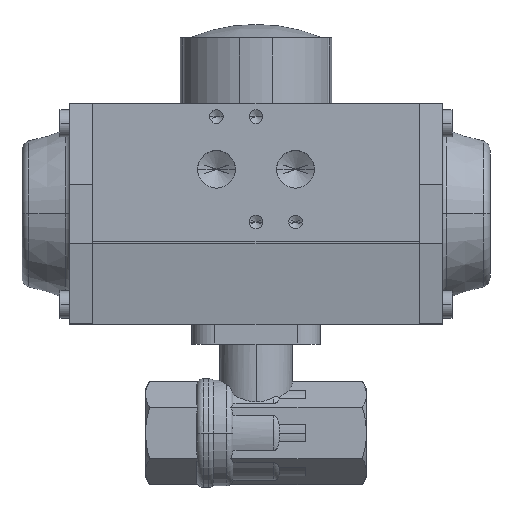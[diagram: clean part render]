
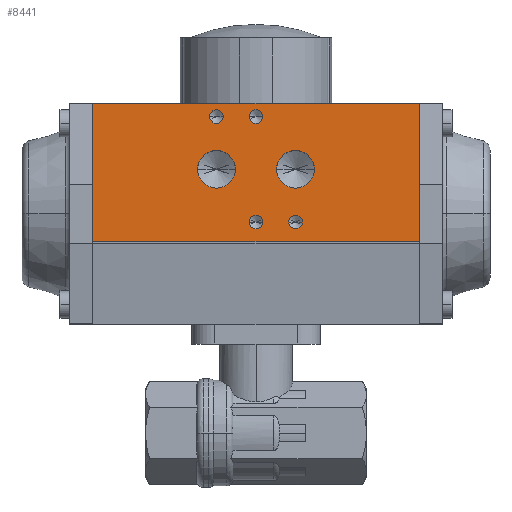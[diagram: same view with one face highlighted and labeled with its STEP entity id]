
A CAD part, top view. The second image highlights one B-rep face of the part: STEP entity #8441.
In plain terms, the highlighted planar face has unit normal (0, 0, 1) as drawn and (1, 0, 0) by its records, which use the part's own axes.
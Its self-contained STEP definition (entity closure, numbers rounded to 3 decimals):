
#475 = ORIENTED_EDGE ( 'NONE', *, *, #2669, .F. ) ;
#476 = ORIENTED_EDGE ( 'NONE', *, *, #2787, .F. ) ;
#477 = ORIENTED_EDGE ( 'NONE', *, *, #2670, .F. ) ;
#478 = ORIENTED_EDGE ( 'NONE', *, *, #2793, .F. ) ;
#479 = ORIENTED_EDGE ( 'NONE', *, *, #2671, .F. ) ;
#480 = ORIENTED_EDGE ( 'NONE', *, *, #2799, .F. ) ;
#481 = ORIENTED_EDGE ( 'NONE', *, *, #2672, .F. ) ;
#482 = ORIENTED_EDGE ( 'NONE', *, *, #2805, .F. ) ;
#483 = ORIENTED_EDGE ( 'NONE', *, *, #2673, .F. ) ;
#484 = ORIENTED_EDGE ( 'NONE', *, *, #2811, .F. ) ;
#485 = ORIENTED_EDGE ( 'NONE', *, *, #2674, .F. ) ;
#486 = ORIENTED_EDGE ( 'NONE', *, *, #2817, .F. ) ;
#487 = ORIENTED_EDGE ( 'NONE', *, *, #2667, .T. ) ;
#488 = ORIENTED_EDGE ( 'NONE', *, *, #2675, .F. ) ;
#489 = ORIENTED_EDGE ( 'NONE', *, *, #2676, .F. ) ;
#490 = ORIENTED_EDGE ( 'NONE', *, *, #2677, .T. ) ;
#2218 = VERTEX_POINT ( 'NONE', #10244 ) ;
#2246 = VERTEX_POINT ( 'NONE', #10243 ) ;
#2313 = VERTEX_POINT ( 'NONE', #10250 ) ;
#2314 = VERTEX_POINT ( 'NONE', #10238 ) ;
#2317 = VERTEX_POINT ( 'NONE', #10252 ) ;
#2318 = VERTEX_POINT ( 'NONE', #10253 ) ;
#2438 = VERTEX_POINT ( 'NONE', #10373 ) ;
#2439 = VERTEX_POINT ( 'NONE', #10374 ) ;
#2441 = VERTEX_POINT ( 'NONE', #10376 ) ;
#2443 = VERTEX_POINT ( 'NONE', #10378 ) ;
#2667 = EDGE_CURVE ( 'NONE', #2438, #2439, #4744, .T. ) ;
#2669 = EDGE_CURVE ( 'NONE', #11009, #11088, #9162, .T. ) ;
#2670 = EDGE_CURVE ( 'NONE', #11082, #11085, #9161, .T. ) ;
#2671 = EDGE_CURVE ( 'NONE', #11117, #11079, #9160, .T. ) ;
#2672 = EDGE_CURVE ( 'NONE', #2218, #2246, #9158, .T. ) ;
#2673 = EDGE_CURVE ( 'NONE', #2318, #2317, #9156, .T. ) ;
#2674 = EDGE_CURVE ( 'NONE', #2314, #2313, #9154, .T. ) ;
#2675 = EDGE_CURVE ( 'NONE', #2441, #2439, #4767, .T. ) ;
#2676 = EDGE_CURVE ( 'NONE', #2443, #2441, #4766, .T. ) ;
#2677 = EDGE_CURVE ( 'NONE', #2443, #2438, #4748, .T. ) ;
#2787 = EDGE_CURVE ( 'NONE', #11088, #11009, #9010, .T. ) ;
#2793 = EDGE_CURVE ( 'NONE', #11085, #11082, #9002, .T. ) ;
#2799 = EDGE_CURVE ( 'NONE', #11079, #11117, #8994, .T. ) ;
#2805 = EDGE_CURVE ( 'NONE', #2246, #2218, #8986, .T. ) ;
#2811 = EDGE_CURVE ( 'NONE', #2317, #2318, #8978, .T. ) ;
#2817 = EDGE_CURVE ( 'NONE', #2313, #2314, #8970, .T. ) ;
#3208 = CARTESIAN_POINT ( 'NONE',  ( 36., -2.5, 0. ) ) ;
#3209 = DIRECTION ( 'NONE',  ( 1., 0., 0. ) ) ;
#3210 = DIRECTION ( 'NONE',  ( 0., 0., -1. ) ) ;
#3226 = CARTESIAN_POINT ( 'NONE',  ( 36., 29.5, 0. ) ) ;
#3227 = DIRECTION ( 'NONE',  ( 1., 0., 0. ) ) ;
#3228 = DIRECTION ( 'NONE',  ( 0., 0., -1. ) ) ;
#3244 = CARTESIAN_POINT ( 'NONE',  ( 36., 13.5, -12. ) ) ;
#3245 = DIRECTION ( 'NONE',  ( 1., 0., 0. ) ) ;
#3246 = DIRECTION ( 'NONE',  ( 0., 0., -1. ) ) ;
#3262 = CARTESIAN_POINT ( 'NONE',  ( 36., 13.5, 12. ) ) ;
#3263 = DIRECTION ( 'NONE',  ( 1., 0., 0. ) ) ;
#3264 = DIRECTION ( 'NONE',  ( 0., 0., -1. ) ) ;
#4744 = LINE ( 'NONE', #4745, #9163 ) ;
#4745 = CARTESIAN_POINT ( 'NONE',  ( 36., 33.5, -49.5 ) ) ;
#4746 = DIRECTION ( 'NONE',  ( 0., 0., 1. ) ) ;
#4748 = LINE ( 'NONE', #4776, #9148 ) ;
#4750 = CARTESIAN_POINT ( 'NONE',  ( 36., -8.5, 49.5 ) ) ;
#4751 = CARTESIAN_POINT ( 'NONE',  ( 36., 29.5, 12. ) ) ;
#4752 = DIRECTION ( 'NONE',  ( 1., 0., 0. ) ) ;
#4753 = DIRECTION ( 'NONE',  ( 0., 0., -1. ) ) ;
#4754 = CARTESIAN_POINT ( 'NONE',  ( 36., -2.5, -12. ) ) ;
#4755 = DIRECTION ( 'NONE',  ( 1., 0., 0. ) ) ;
#4756 = DIRECTION ( 'NONE',  ( 0., 0., -1. ) ) ;
#4757 = CARTESIAN_POINT ( 'NONE',  ( 36., -2.5, 0. ) ) ;
#4758 = DIRECTION ( 'NONE',  ( 1., 0., 0. ) ) ;
#4759 = DIRECTION ( 'NONE',  ( 0., 0., -1. ) ) ;
#4760 = CARTESIAN_POINT ( 'NONE',  ( 36., 29.5, 0. ) ) ;
#4761 = DIRECTION ( 'NONE',  ( 1., 0., 0. ) ) ;
#4762 = DIRECTION ( 'NONE',  ( 0., 0., -1. ) ) ;
#4763 = CARTESIAN_POINT ( 'NONE',  ( 36., 13.5, -12. ) ) ;
#4764 = DIRECTION ( 'NONE',  ( 1., 0., 0. ) ) ;
#4765 = DIRECTION ( 'NONE',  ( 0., 0., -1. ) ) ;
#4766 = LINE ( 'NONE', #4773, #9150 ) ;
#4767 = LINE ( 'NONE', #4750, #9152 ) ;
#4768 = CARTESIAN_POINT ( 'NONE',  ( 36., 13.5, 12. ) ) ;
#4769 = DIRECTION ( 'NONE',  ( 1., 0., 0. ) ) ;
#4770 = DIRECTION ( 'NONE',  ( 0., 0., -1. ) ) ;
#4772 = DIRECTION ( 'NONE',  ( 0., 1., 0. ) ) ;
#4773 = CARTESIAN_POINT ( 'NONE',  ( 36., -8.5, -49.5 ) ) ;
#4775 = DIRECTION ( 'NONE',  ( 0., 0., 1. ) ) ;
#4776 = CARTESIAN_POINT ( 'NONE',  ( 36., -8.5, -49.5 ) ) ;
#4777 = DIRECTION ( 'NONE',  ( 0., 1., 0. ) ) ;
#5106 = CARTESIAN_POINT ( 'NONE',  ( 36., 29.5, 12. ) ) ;
#5107 = DIRECTION ( 'NONE',  ( 1., 0., 0. ) ) ;
#5108 = DIRECTION ( 'NONE',  ( 0., 0., -1. ) ) ;
#5124 = CARTESIAN_POINT ( 'NONE',  ( 36., -2.5, -12. ) ) ;
#5125 = DIRECTION ( 'NONE',  ( 1., 0., 0. ) ) ;
#5126 = DIRECTION ( 'NONE',  ( 0., 0., -1. ) ) ;
#5184 = CARTESIAN_POINT ( 'NONE',  ( 36., -8.5, -49.5 ) ) ;
#5188 = FACE_BOUND ( 'NONE', #10903, .T. ) ;
#5191 = FACE_BOUND ( 'NONE', #10865, .T. ) ;
#5192 = FACE_BOUND ( 'NONE', #10907, .T. ) ;
#5193 = FACE_BOUND ( 'NONE', #10902, .T. ) ;
#5194 = FACE_OUTER_BOUND ( 'NONE', #10863, .T. ) ;
#5195 = FACE_BOUND ( 'NONE', #10864, .T. ) ;
#5196 = PLANE ( 'NONE',  #9823 ) ;
#5197 = FACE_BOUND ( 'NONE', #10905, .T. ) ;
#5200 = DIRECTION ( 'NONE',  ( 1., 0., 0. ) ) ;
#5201 = DIRECTION ( 'NONE',  ( 0., 0., -1. ) ) ;
#5930 = CARTESIAN_POINT ( 'NONE',  ( 36., 29.5, 9.9 ) ) ;
#6000 = CARTESIAN_POINT ( 'NONE',  ( 36., -2.5, 2.1 ) ) ;
#6003 = CARTESIAN_POINT ( 'NONE',  ( 36., -2.5, -14.1 ) ) ;
#6006 = CARTESIAN_POINT ( 'NONE',  ( 36., -2.5, -9.9 ) ) ;
#6009 = CARTESIAN_POINT ( 'NONE',  ( 36., 29.5, 14.1 ) ) ;
#6036 = CARTESIAN_POINT ( 'NONE',  ( 36., -2.5, -2.1 ) ) ;
#8441 = ADVANCED_FACE ( 'NONE', ( #5192, #5188, #5195, #5197, #5191, #5193, #5194 ), #5196, .T. ) ;
#8966 = AXIS2_PLACEMENT_3D ( 'NONE', #3262, #3263, #3264 ) ;
#8970 = CIRCLE ( 'NONE', #8966, 5.722 ) ;
#8974 = AXIS2_PLACEMENT_3D ( 'NONE', #3244, #3245, #3246 ) ;
#8978 = CIRCLE ( 'NONE', #8974, 5.722 ) ;
#8982 = AXIS2_PLACEMENT_3D ( 'NONE', #3226, #3227, #3228 ) ;
#8986 = CIRCLE ( 'NONE', #8982, 2.1 ) ;
#8990 = AXIS2_PLACEMENT_3D ( 'NONE', #3208, #3209, #3210 ) ;
#8994 = CIRCLE ( 'NONE', #8990, 2.1 ) ;
#8998 = AXIS2_PLACEMENT_3D ( 'NONE', #5124, #5125, #5126 ) ;
#9002 = CIRCLE ( 'NONE', #8998, 2.1 ) ;
#9006 = AXIS2_PLACEMENT_3D ( 'NONE', #5106, #5107, #5108 ) ;
#9010 = CIRCLE ( 'NONE', #9006, 2.1 ) ;
#9148 = VECTOR ( 'NONE', #4777, 1000. ) ;
#9149 = AXIS2_PLACEMENT_3D ( 'NONE', #4768, #4769, #4770 ) ;
#9150 = VECTOR ( 'NONE', #4775, 1000. ) ;
#9151 = AXIS2_PLACEMENT_3D ( 'NONE', #4763, #4764, #4765 ) ;
#9152 = VECTOR ( 'NONE', #4772, 1000. ) ;
#9153 = AXIS2_PLACEMENT_3D ( 'NONE', #4760, #4761, #4762 ) ;
#9154 = CIRCLE ( 'NONE', #9149, 5.722 ) ;
#9155 = AXIS2_PLACEMENT_3D ( 'NONE', #4757, #4758, #4759 ) ;
#9156 = CIRCLE ( 'NONE', #9151, 5.722 ) ;
#9157 = AXIS2_PLACEMENT_3D ( 'NONE', #4754, #4755, #4756 ) ;
#9158 = CIRCLE ( 'NONE', #9153, 2.1 ) ;
#9159 = AXIS2_PLACEMENT_3D ( 'NONE', #4751, #4752, #4753 ) ;
#9160 = CIRCLE ( 'NONE', #9155, 2.1 ) ;
#9161 = CIRCLE ( 'NONE', #9157, 2.1 ) ;
#9162 = CIRCLE ( 'NONE', #9159, 2.1 ) ;
#9163 = VECTOR ( 'NONE', #4746, 1000. ) ;
#9823 = AXIS2_PLACEMENT_3D ( 'NONE', #5184, #5200, #5201 ) ;
#10238 = CARTESIAN_POINT ( 'NONE',  ( 36., 13.5, 6.277 ) ) ;
#10243 = CARTESIAN_POINT ( 'NONE',  ( 36., 29.5, 2.1 ) ) ;
#10244 = CARTESIAN_POINT ( 'NONE',  ( 36., 29.5, -2.1 ) ) ;
#10250 = CARTESIAN_POINT ( 'NONE',  ( 36., 13.5, 17.722 ) ) ;
#10252 = CARTESIAN_POINT ( 'NONE',  ( 36., 13.5, -6.277 ) ) ;
#10253 = CARTESIAN_POINT ( 'NONE',  ( 36., 13.5, -17.722 ) ) ;
#10373 = CARTESIAN_POINT ( 'NONE',  ( 36., 33.5, -49.5 ) ) ;
#10374 = CARTESIAN_POINT ( 'NONE',  ( 36., 33.5, 49.5 ) ) ;
#10376 = CARTESIAN_POINT ( 'NONE',  ( 36., -8.5, 49.5 ) ) ;
#10378 = CARTESIAN_POINT ( 'NONE',  ( 36., -8.5, -49.5 ) ) ;
#10863 = EDGE_LOOP ( 'NONE', ( #487, #488, #489, #490 ) ) ;
#10864 = EDGE_LOOP ( 'NONE', ( #479, #480 ) ) ;
#10865 = EDGE_LOOP ( 'NONE', ( #483, #484 ) ) ;
#10902 = EDGE_LOOP ( 'NONE', ( #485, #486 ) ) ;
#10903 = EDGE_LOOP ( 'NONE', ( #477, #478 ) ) ;
#10905 = EDGE_LOOP ( 'NONE', ( #481, #482 ) ) ;
#10907 = EDGE_LOOP ( 'NONE', ( #475, #476 ) ) ;
#11009 = VERTEX_POINT ( 'NONE', #5930 ) ;
#11079 = VERTEX_POINT ( 'NONE', #6000 ) ;
#11082 = VERTEX_POINT ( 'NONE', #6003 ) ;
#11085 = VERTEX_POINT ( 'NONE', #6006 ) ;
#11088 = VERTEX_POINT ( 'NONE', #6009 ) ;
#11117 = VERTEX_POINT ( 'NONE', #6036 ) ;
